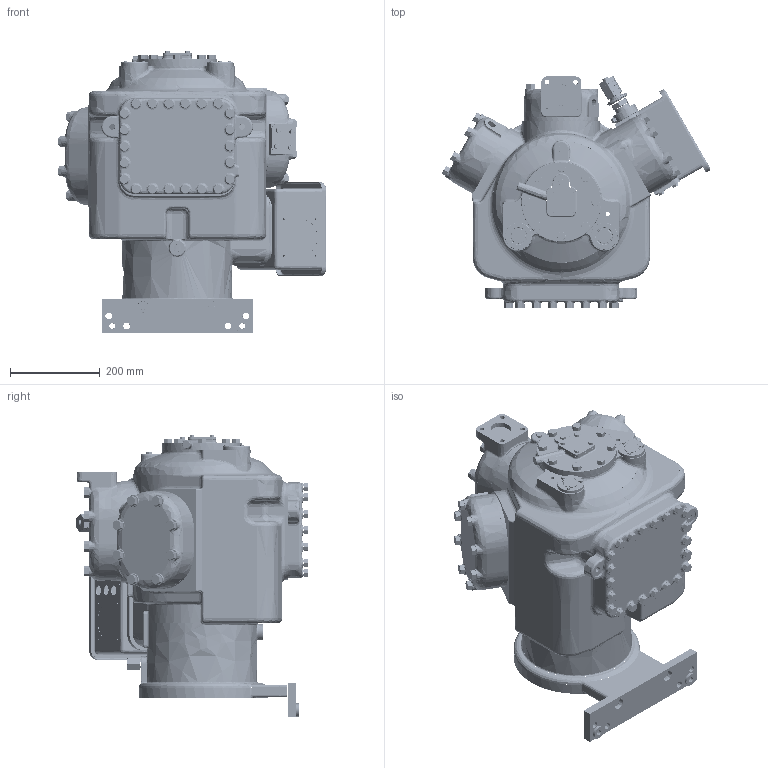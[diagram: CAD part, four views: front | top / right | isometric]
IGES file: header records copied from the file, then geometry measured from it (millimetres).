
Start section:  PTC IGES file: 06e61phsl_wire.igs
Global section: file name: 06e61phsl_wire.igs; native system: Pro/ENGINEER by Parametric Technology Corporation; preprocessor: 2003161; author: manikandanm; organization: Unknown; date: 040123.212052; units: inch
Bounding box: 597.44 x 515.75 x 628.04 mm (x, y, z)
Surface area: 1850646.1 mm2 (no closed solid volume)
Topology: 0 solids, 0 shells, 2653 faces, 13047 edges, 13043 vertices
Faces by surface type: bspline 2653
